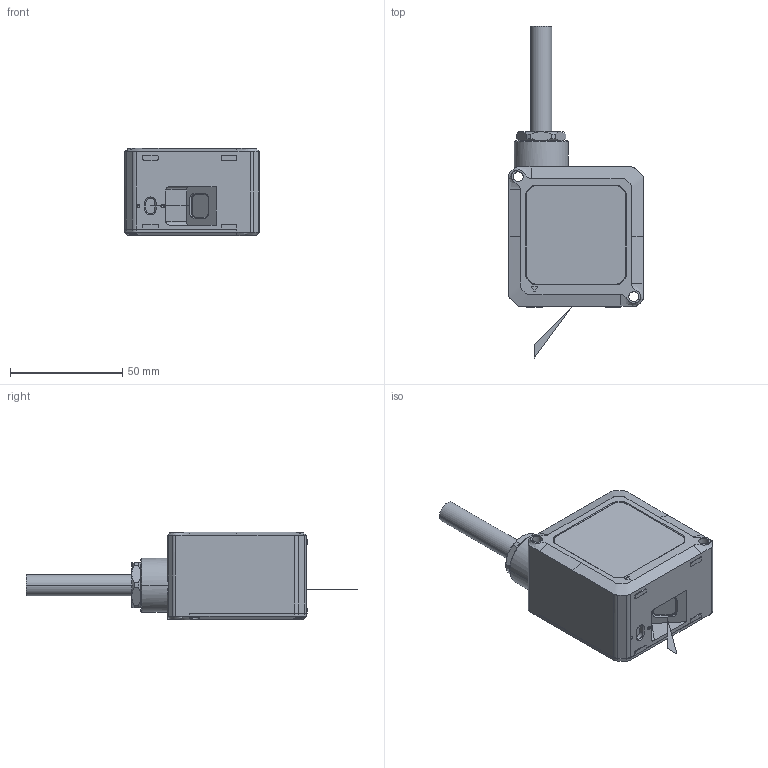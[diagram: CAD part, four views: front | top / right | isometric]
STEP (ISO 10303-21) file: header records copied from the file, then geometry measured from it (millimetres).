
FILE_DESCRIPTION((''),'2;1');
FILE_NAME('000-MV-DD020-03H-ALL_SW0001','2025-11-06T10:22:03',('liudeting'),(''),'CREO PARAMETRIC BY PTC INC, 2020044','CREO PARAMETRIC BY PTC INC, 2020044','');
FILE_SCHEMA(('CONFIG_CONTROL_DESIGN'));
Length unit declared in the file: millimetre
Products named in the file (1): 000-MV-DD020-03H-ALL_SW0001
Bounding box: 60 x 147.8 x 39 mm (x, y, z)
Surface area: 21453.8 mm2 (no closed solid volume)
Topology: 0 solids, 16 shells, 299 faces, 949 edges, 657 vertices
Faces by surface type: plane 148, cylinder 78, cone 54, bspline 11, torus 8
Entity records: 14224 total; most frequent: CARTESIAN_POINT 6115, DIRECTION 1648, ORIENTED_EDGE 1607, EDGE_CURVE 921, VERTEX_POINT 652, AXIS2_PLACEMENT_3D 566, VECTOR 516, LINE 516
